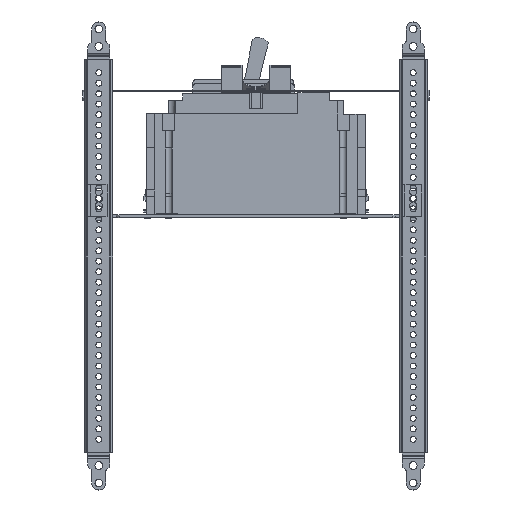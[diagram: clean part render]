
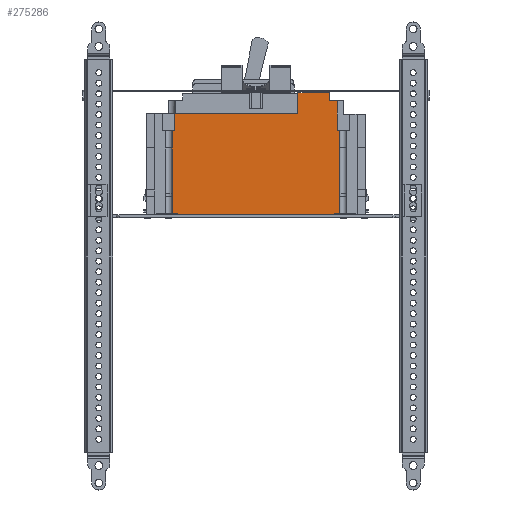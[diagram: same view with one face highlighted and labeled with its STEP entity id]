
A CAD part, left-side view. The second image highlights one B-rep face of the part: STEP entity #275286.
In plain terms, the highlighted planar face has unit normal (-1, 0, 0).
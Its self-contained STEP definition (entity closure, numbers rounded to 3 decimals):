
#260711=CARTESIAN_POINT(' ',(-214.311,-53.186,-65.147));
#260712=VERTEX_POINT(' ',#260711);
#260726=CARTESIAN_POINT(' ',(-214.311,-53.186,-65.147));
#260731=DIRECTION(' ',(0.,1.,0.));
#260736=VECTOR(' ',#260731,1.);
#260741=LINE('',#260726,#260736);
#260746=CARTESIAN_POINT(' ',(-214.311,59.234,-65.147));
#260747=VERTEX_POINT(' ',#260746);
#260751=EDGE_CURVE(' ',#260712,#260747,#260741,.T.);
#274666=CARTESIAN_POINT(' ',(-214.311,-53.186,-65.147));
#274671=DIRECTION(' ',(0.,0.,1.));
#274676=VECTOR(' ',#274671,1.);
#274681=LINE('',#274666,#274676);
#274686=CARTESIAN_POINT(' ',(-214.311,-53.186,-64.647));
#274687=VERTEX_POINT(' ',#274686);
#274691=EDGE_CURVE(' ',#260712,#274687,#274681,.T.);
#274756=DIRECTION(' ',(-1.,0.,0.));
#274761=CARTESIAN_POINT(' ',(-214.311,-56.888,-65.147));
#274766=DIRECTION(' ',(0.,-0.,1.));
#274771=AXIS2_PLACEMENT_3D(' ',#274761,#274756,#274766);
#274776=PLANE('NONE',#274771);
#274781=CARTESIAN_POINT(' ',(-214.311,-56.888,-5.216));
#274786=DIRECTION(' ',(0.,0.,-1.));
#274791=VECTOR(' ',#274786,1.);
#274796=LINE('',#274781,#274791);
#274801=CARTESIAN_POINT(' ',(-214.311,-56.888,-5.216));
#274802=VERTEX_POINT(' ',#274801);
#274806=CARTESIAN_POINT(' ',(-214.311,-56.888,-64.647));
#274807=VERTEX_POINT(' ',#274806);
#274811=EDGE_CURVE(' ',#274802,#274807,#274796,.T.);
#274816=ORIENTED_EDGE(' ',*,*,#274811,.F.);
#274821=CARTESIAN_POINT(' ',(-214.311,-54.988,-5.216));
#274826=DIRECTION(' ',(0.,-1.,0.));
#274831=VECTOR(' ',#274826,1.);
#274836=LINE('',#274821,#274831);
#274841=CARTESIAN_POINT(' ',(-214.311,-54.988,-5.216));
#274842=VERTEX_POINT(' ',#274841);
#274846=EDGE_CURVE(' ',#274842,#274802,#274836,.T.);
#274851=ORIENTED_EDGE(' ',*,*,#274846,.F.);
#274856=CARTESIAN_POINT(' ',(-214.311,-54.988,15.994));
#274861=DIRECTION(' ',(0.,0.,-1.));
#274866=VECTOR(' ',#274861,1.);
#274871=LINE('',#274856,#274866);
#274876=CARTESIAN_POINT(' ',(-214.311,-54.988,15.994));
#274877=VERTEX_POINT(' ',#274876);
#274881=EDGE_CURVE(' ',#274877,#274842,#274871,.T.);
#274886=ORIENTED_EDGE(' ',*,*,#274881,.F.);
#274891=CARTESIAN_POINT(' ',(-214.311,-49.491,15.994));
#274896=DIRECTION(' ',(0.,-1.,0.));
#274901=VECTOR(' ',#274896,1.);
#274906=LINE('',#274891,#274901);
#274911=CARTESIAN_POINT(' ',(-214.311,-49.491,15.994));
#274912=VERTEX_POINT(' ',#274911);
#274916=EDGE_CURVE(' ',#274912,#274877,#274906,.T.);
#274921=ORIENTED_EDGE(' ',*,*,#274916,.F.);
#274926=CARTESIAN_POINT(' ',(-214.311,-49.491,21.844));
#274931=DIRECTION(' ',(0.,0.,-1.));
#274936=VECTOR(' ',#274931,1.);
#274941=LINE('',#274926,#274936);
#274946=CARTESIAN_POINT(' ',(-214.311,-49.491,21.844));
#274947=VERTEX_POINT(' ',#274946);
#274951=EDGE_CURVE(' ',#274947,#274912,#274941,.T.);
#274956=ORIENTED_EDGE(' ',*,*,#274951,.F.);
#274961=CARTESIAN_POINT(' ',(-214.311,-26.993,21.844));
#274966=DIRECTION(' ',(0.,-1.,0.));
#274971=VECTOR(' ',#274966,1.);
#274976=LINE('',#274961,#274971);
#274981=CARTESIAN_POINT(' ',(-214.311,-26.993,21.844));
#274982=VERTEX_POINT(' ',#274981);
#274986=EDGE_CURVE(' ',#274982,#274947,#274976,.T.);
#274991=ORIENTED_EDGE(' ',*,*,#274986,.F.);
#274996=CARTESIAN_POINT(' ',(-214.311,-26.993,21.844));
#275001=DIRECTION(' ',(0.,0.,-1.));
#275006=VECTOR(' ',#275001,1.);
#275011=LINE('',#274996,#275006);
#275016=CARTESIAN_POINT(' ',(-214.311,-26.993,6.704));
#275017=VERTEX_POINT(' ',#275016);
#275021=EDGE_CURVE(' ',#274982,#275017,#275011,.T.);
#275026=ORIENTED_EDGE(' ',*,*,#275021,.T.);
#275031=CARTESIAN_POINT(' ',(-214.311,-26.993,6.704));
#275036=DIRECTION(' ',(0.,1.,0.));
#275041=VECTOR(' ',#275036,1.);
#275046=LINE('',#275031,#275041);
#275051=CARTESIAN_POINT(' ',(-214.311,61.034,6.704));
#275052=VERTEX_POINT(' ',#275051);
#275056=EDGE_CURVE(' ',#275017,#275052,#275046,.T.);
#275061=ORIENTED_EDGE(' ',*,*,#275056,.T.);
#275066=CARTESIAN_POINT(' ',(-214.311,61.034,6.704));
#275071=DIRECTION(' ',(0.,0.,-1.));
#275076=VECTOR(' ',#275071,1.);
#275081=LINE('',#275066,#275076);
#275086=CARTESIAN_POINT(' ',(-214.311,61.034,-5.596));
#275087=VERTEX_POINT(' ',#275086);
#275091=EDGE_CURVE(' ',#275052,#275087,#275081,.T.);
#275096=ORIENTED_EDGE(' ',*,*,#275091,.T.);
#275101=CARTESIAN_POINT(' ',(-214.311,61.034,-5.596));
#275106=DIRECTION(' ',(0.,1.,0.));
#275111=VECTOR(' ',#275106,1.);
#275116=LINE('',#275101,#275111);
#275121=CARTESIAN_POINT(' ',(-214.311,62.936,-5.596));
#275122=VERTEX_POINT(' ',#275121);
#275126=EDGE_CURVE(' ',#275087,#275122,#275116,.T.);
#275131=ORIENTED_EDGE(' ',*,*,#275126,.T.);
#275136=CARTESIAN_POINT(' ',(-214.311,62.936,-64.647));
#275141=DIRECTION(' ',(0.,0.,1.));
#275146=VECTOR(' ',#275141,1.);
#275151=LINE('',#275136,#275146);
#275156=CARTESIAN_POINT(' ',(-214.311,62.936,-64.647));
#275157=VERTEX_POINT(' ',#275156);
#275161=EDGE_CURVE(' ',#275157,#275122,#275151,.T.);
#275166=ORIENTED_EDGE(' ',*,*,#275161,.F.);
#275171=CARTESIAN_POINT(' ',(-214.311,62.936,-64.647));
#275176=DIRECTION(' ',(0.,-1.,0.));
#275181=VECTOR(' ',#275176,1.);
#275186=LINE('',#275171,#275181);
#275191=CARTESIAN_POINT(' ',(-214.311,59.234,-64.647));
#275192=VERTEX_POINT(' ',#275191);
#275196=EDGE_CURVE(' ',#275157,#275192,#275186,.T.);
#275201=ORIENTED_EDGE(' ',*,*,#275196,.T.);
#275206=CARTESIAN_POINT(' ',(-214.311,59.234,-65.147));
#275211=DIRECTION(' ',(0.,0.,1.));
#275216=VECTOR(' ',#275211,1.);
#275221=LINE('',#275206,#275216);
#275226=EDGE_CURVE(' ',#260747,#275192,#275221,.T.);
#275231=ORIENTED_EDGE(' ',*,*,#275226,.F.);
#275236=ORIENTED_EDGE(' ',*,*,#260751,.F.);
#275241=ORIENTED_EDGE(' ',*,*,#274691,.T.);
#275246=CARTESIAN_POINT(' ',(-214.311,-56.888,-64.647));
#275251=DIRECTION(' ',(0.,1.,0.));
#275256=VECTOR(' ',#275251,1.);
#275261=LINE('',#275246,#275256);
#275266=EDGE_CURVE(' ',#274807,#274687,#275261,.T.);
#275271=ORIENTED_EDGE(' ',*,*,#275266,.F.);
#275276=EDGE_LOOP(' ',(#274816,#274851,#274886,#274921,#274956,#274991,#275026,#275061,#275096,#275131,#275166,#275201,#275231,#275236,#275241,#275271));
#275281=FACE_OUTER_BOUND(' ',#275276,.T.);
#275286=ADVANCED_FACE('NONE',(#275281),#274776,.T.);
